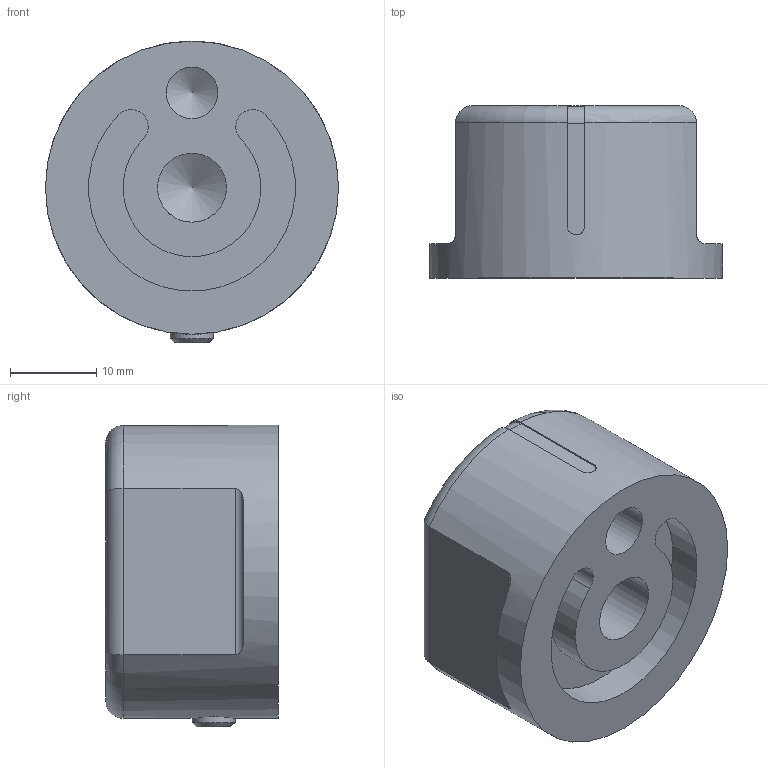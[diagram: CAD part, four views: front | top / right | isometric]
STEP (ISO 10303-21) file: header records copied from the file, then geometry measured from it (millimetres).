
FILE_DESCRIPTION( ( 'STEP AP203' ), '1' );
FILE_NAME( 'C:/Temp/Ganter_Step_05_03_2020/data/1_4/gn_729/Control knob GN 729-34-B8.stp', '2020-03-05T10:51:01', ( 'License CC BY-ND 4.0' ), ( 'CADENAS' ), ' ', 'PARTsolutions', ' ' );
FILE_SCHEMA( ( 'CONFIG_CONTROL_DESIGN' ) );
Length unit declared in the file: millimetre
Products named in the file (1): _Control knob GN 729-34-B8
Bounding box: 34 x 20 x 35 mm (x, y, z)
Volume: 14962.1 mm3; surface area: 4830.8 mm2
Topology: 1 solids, 1 shells, 43 faces, 114 edges, 75 vertices
Faces by surface type: plane 20, cylinder 16, cone 4, torus 3
Full cylindrical faces by diameter (mm): 5 x2, 6 x1, 8 x1, 34 x1
Entity records: 1540 total; most frequent: CARTESIAN_POINT 523, DIRECTION 196, ORIENTED_EDGE 190, EDGE_CURVE 95, AXIS2_PLACEMENT_3D 74, VERTEX_POINT 69, EDGE_LOOP 56, FACE_OUTER_BOUND 48
